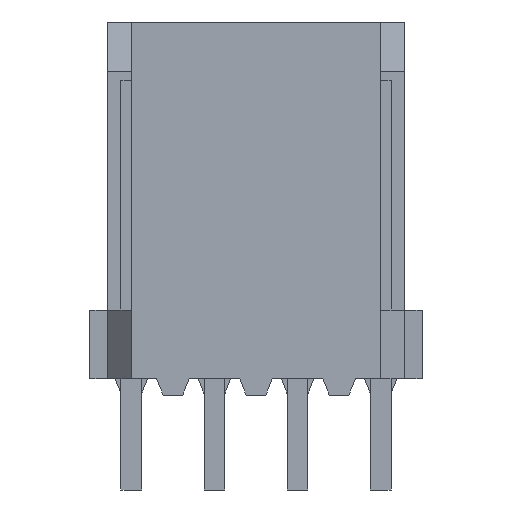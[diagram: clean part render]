
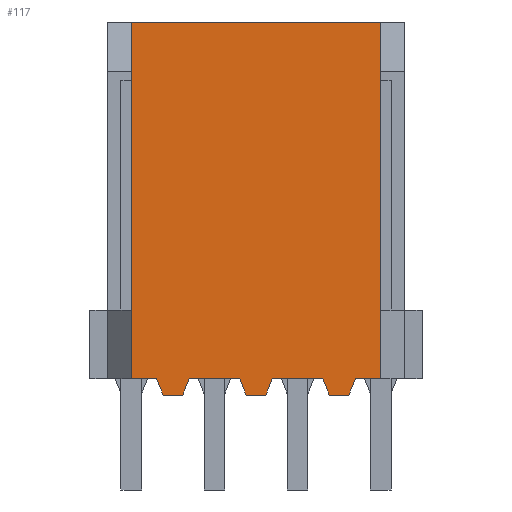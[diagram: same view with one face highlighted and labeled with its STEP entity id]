
A CAD part, front view. The second image highlights one B-rep face of the part: STEP entity #117.
In plain terms, the highlighted planar face has unit normal (0, -1, 0).
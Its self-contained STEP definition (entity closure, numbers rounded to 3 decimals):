
#117=ADVANCED_FACE('',(#395),#396,.T.);
#395=FACE_OUTER_BOUND('',#796,.T.);
#396=PLANE('',#797);
#796=EDGE_LOOP('',(#1714,#1715,#1716,#1717,#1718,#1719,#1720,#1721,#1722,#1723,#1724,#1725,#1726,#1727,#1728,#1729));
#797=AXIS2_PLACEMENT_3D('',#1730,#1731,#1732);
#1714=ORIENTED_EDGE('',*,*,#2985,.T.);
#1715=ORIENTED_EDGE('',*,*,#2891,.T.);
#1716=ORIENTED_EDGE('',*,*,#2986,.T.);
#1717=ORIENTED_EDGE('',*,*,#2987,.T.);
#1718=ORIENTED_EDGE('',*,*,#2988,.T.);
#1719=ORIENTED_EDGE('',*,*,#2868,.T.);
#1720=ORIENTED_EDGE('',*,*,#2989,.T.);
#1721=ORIENTED_EDGE('',*,*,#2990,.F.);
#1722=ORIENTED_EDGE('',*,*,#2984,.T.);
#1723=ORIENTED_EDGE('',*,*,#2864,.T.);
#1724=ORIENTED_EDGE('',*,*,#2991,.T.);
#1725=ORIENTED_EDGE('',*,*,#2992,.F.);
#1726=ORIENTED_EDGE('',*,*,#2993,.T.);
#1727=ORIENTED_EDGE('',*,*,#2860,.T.);
#1728=ORIENTED_EDGE('',*,*,#2994,.T.);
#1729=ORIENTED_EDGE('',*,*,#2995,.F.);
#1730=CARTESIAN_POINT('',(5.08,-2.5,-10.9));
#1731=DIRECTION('',(0.0,-1.0,0.0));
#1732=DIRECTION('',(0.0,0.0,-1.0));
#2860=EDGE_CURVE('',#3550,#3548,#3551,.T.);
#2864=EDGE_CURVE('',#3558,#3556,#3559,.T.);
#2868=EDGE_CURVE('',#3566,#3564,#3567,.T.);
#2891=EDGE_CURVE('',#3610,#3608,#3611,.T.);
#2984=EDGE_CURVE('',#3758,#3558,#3760,.T.);
#2985=EDGE_CURVE('',#3761,#3610,#3762,.T.);
#2986=EDGE_CURVE('',#3608,#3763,#3764,.T.);
#2987=EDGE_CURVE('',#3763,#3765,#3766,.T.);
#2988=EDGE_CURVE('',#3765,#3566,#3767,.T.);
#2989=EDGE_CURVE('',#3564,#3768,#3769,.T.);
#2990=EDGE_CURVE('',#3758,#3768,#3770,.T.);
#2991=EDGE_CURVE('',#3556,#3771,#3772,.T.);
#2992=EDGE_CURVE('',#3773,#3771,#3774,.T.);
#2993=EDGE_CURVE('',#3773,#3550,#3775,.T.);
#2994=EDGE_CURVE('',#3548,#3776,#3777,.T.);
#2995=EDGE_CURVE('',#3761,#3776,#3778,.T.);
#3548=VERTEX_POINT('',#4556);
#3550=VERTEX_POINT('',#4559);
#3551=LINE('',#4560,#4561);
#3556=VERTEX_POINT('',#4568);
#3558=VERTEX_POINT('',#4571);
#3559=LINE('',#4572,#4573);
#3564=VERTEX_POINT('',#4580);
#3566=VERTEX_POINT('',#4583);
#3567=LINE('',#4584,#4585);
#3608=VERTEX_POINT('',#4647);
#3610=VERTEX_POINT('',#4650);
#3611=LINE('',#4651,#4652);
#3758=VERTEX_POINT('',#4890);
#3760=LINE('',#4893,#4894);
#3761=VERTEX_POINT('',#4895);
#3762=LINE('',#4896,#4897);
#3763=VERTEX_POINT('',#4898);
#3764=LINE('',#4899,#4900);
#3765=VERTEX_POINT('',#4901);
#3766=LINE('',#4902,#4903);
#3767=LINE('',#4904,#4905);
#3768=VERTEX_POINT('',#4906);
#3769=LINE('',#4907,#4908);
#3770=LINE('',#4909,#4910);
#3771=VERTEX_POINT('',#4911);
#3772=LINE('',#4912,#4913);
#3773=VERTEX_POINT('',#4914);
#3774=LINE('',#4915,#4916);
#3775=LINE('',#4917,#4918);
#3776=VERTEX_POINT('',#4919);
#3777=LINE('',#4920,#4921);
#3778=LINE('',#4922,#4923);
#4556=CARTESIAN_POINT('',(2.04,-2.5,-10.9));
#4559=CARTESIAN_POINT('',(0.5,-2.5,-10.9));
#4560=CARTESIAN_POINT('',(0.5,-2.5,-10.9));
#4561=VECTOR('',#5692,1.54);
#4568=CARTESIAN_POINT('',(-0.5,-2.5,-10.9));
#4571=CARTESIAN_POINT('',(-2.04,-2.5,-10.9));
#4572=CARTESIAN_POINT('',(-2.04,-2.5,-10.9));
#4573=VECTOR('',#5696,1.54);
#4580=CARTESIAN_POINT('',(-3.04,-2.5,-10.9));
#4583=CARTESIAN_POINT('',(-3.81,-2.5,-10.9));
#4584=CARTESIAN_POINT('',(-3.81,-2.5,-10.9));
#4585=VECTOR('',#5700,0.77);
#4647=CARTESIAN_POINT('',(3.81,-2.5,-10.9));
#4650=CARTESIAN_POINT('',(3.04,-2.5,-10.9));
#4651=CARTESIAN_POINT('',(3.04,-2.5,-10.9));
#4652=VECTOR('',#5723,0.77);
#4890=CARTESIAN_POINT('',(-2.24,-2.5,-11.4));
#4893=CARTESIAN_POINT('',(-2.24,-2.5,-11.4));
#4894=VECTOR('',#5816,0.539);
#4895=CARTESIAN_POINT('',(2.84,-2.5,-11.4));
#4896=CARTESIAN_POINT('',(2.84,-2.5,-11.4));
#4897=VECTOR('',#5817,0.539);
#4898=CARTESIAN_POINT('',(3.81,-2.5,0.0));
#4899=CARTESIAN_POINT('',(3.81,-2.5,-10.9));
#4900=VECTOR('',#5818,10.9);
#4901=CARTESIAN_POINT('',(-3.81,-2.5,0.0));
#4902=CARTESIAN_POINT('',(3.81,-2.5,0.0));
#4903=VECTOR('',#5819,7.62);
#4904=CARTESIAN_POINT('',(-3.81,-2.5,0.0));
#4905=VECTOR('',#5820,10.9);
#4906=CARTESIAN_POINT('',(-2.84,-2.5,-11.4));
#4907=CARTESIAN_POINT('',(-3.04,-2.5,-10.9));
#4908=VECTOR('',#5821,0.539);
#4909=CARTESIAN_POINT('',(-2.24,-2.5,-11.4));
#4910=VECTOR('',#5822,0.6);
#4911=CARTESIAN_POINT('',(-0.3,-2.5,-11.4));
#4912=CARTESIAN_POINT('',(-0.5,-2.5,-10.9));
#4913=VECTOR('',#5823,0.539);
#4914=CARTESIAN_POINT('',(0.3,-2.5,-11.4));
#4915=CARTESIAN_POINT('',(0.3,-2.5,-11.4));
#4916=VECTOR('',#5824,0.6);
#4917=CARTESIAN_POINT('',(0.3,-2.5,-11.4));
#4918=VECTOR('',#5825,0.539);
#4919=CARTESIAN_POINT('',(2.24,-2.5,-11.4));
#4920=CARTESIAN_POINT('',(2.04,-2.5,-10.9));
#4921=VECTOR('',#5826,0.539);
#4922=CARTESIAN_POINT('',(2.84,-2.5,-11.4));
#4923=VECTOR('',#5827,0.6);
#5692=DIRECTION('',(1.0,0.0,0.0));
#5696=DIRECTION('',(1.0,0.0,0.0));
#5700=DIRECTION('',(1.0,0.0,0.0));
#5723=DIRECTION('',(1.0,0.0,0.0));
#5816=DIRECTION('',(0.371,0.0,0.928));
#5817=DIRECTION('',(0.371,0.0,0.928));
#5818=DIRECTION('',(0.0,0.0,1.0));
#5819=DIRECTION('',(-1.0,0.0,0.0));
#5820=DIRECTION('',(0.0,0.0,-1.0));
#5821=DIRECTION('',(0.371,0.0,-0.928));
#5822=DIRECTION('',(-1.0,0.0,0.0));
#5823=DIRECTION('',(0.371,0.0,-0.928));
#5824=DIRECTION('',(-1.0,0.0,0.0));
#5825=DIRECTION('',(0.371,0.0,0.928));
#5826=DIRECTION('',(0.371,0.0,-0.928));
#5827=DIRECTION('',(-1.0,0.0,0.0));
